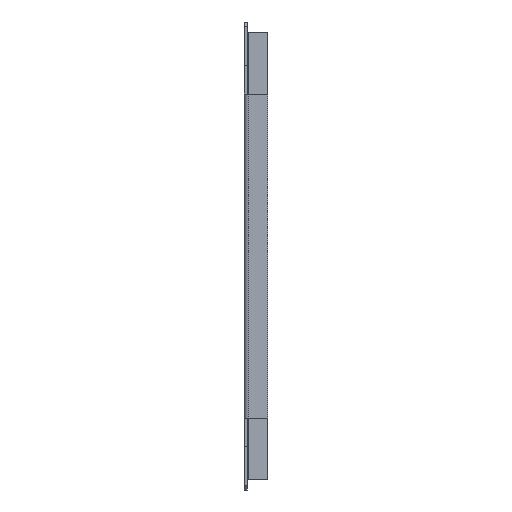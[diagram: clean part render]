
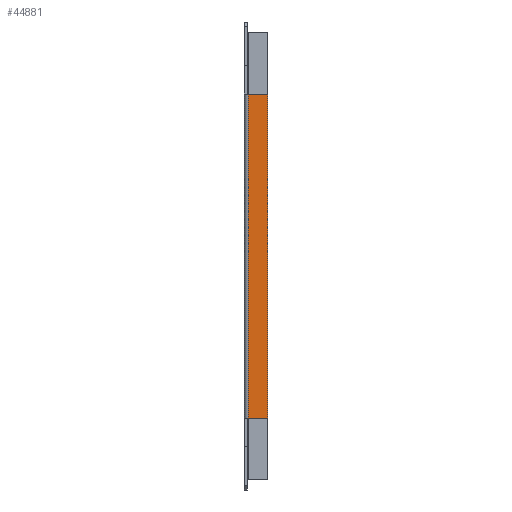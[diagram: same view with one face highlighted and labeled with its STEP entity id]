
A CAD part, left-side view. The second image highlights one B-rep face of the part: STEP entity #44881.
In plain terms, the highlighted planar face has unit normal (-1, 0, 0).
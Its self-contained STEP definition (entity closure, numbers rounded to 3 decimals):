
#43846=CARTESIAN_POINT(' ',(-99.5,-2.6,-103.5));
#43847=VERTEX_POINT(' ',#43846);
#43861=CARTESIAN_POINT(' ',(-99.5,-2.6,-103.5));
#43866=DIRECTION(' ',(0.,0.,1.));
#43871=VECTOR(' ',#43866,1.);
#43876=LINE('',#43861,#43871);
#43881=CARTESIAN_POINT(' ',(-99.5,-2.6,103.5));
#43882=VERTEX_POINT(' ',#43881);
#43886=EDGE_CURVE(' ',#43847,#43882,#43876,.T.);
#44296=CARTESIAN_POINT(' ',(-99.5,-15.,103.5));
#44301=DIRECTION(' ',(0.,1.,0.));
#44306=VECTOR(' ',#44301,1.);
#44311=LINE('',#44296,#44306);
#44316=CARTESIAN_POINT(' ',(-99.5,-15.,103.5));
#44317=VERTEX_POINT(' ',#44316);
#44321=EDGE_CURVE(' ',#44317,#43882,#44311,.T.);
#44581=CARTESIAN_POINT(' ',(-99.5,-15.,-103.5));
#44582=VERTEX_POINT(' ',#44581);
#44596=CARTESIAN_POINT(' ',(-99.5,-2.6,-103.5));
#44601=DIRECTION(' ',(0.,-1.,0.));
#44606=VECTOR(' ',#44601,1.);
#44611=LINE('',#44596,#44606);
#44616=EDGE_CURVE(' ',#43847,#44582,#44611,.T.);
#44801=DIRECTION(' ',(-1.,0.,-0.));
#44806=CARTESIAN_POINT(' ',(-99.5,-15.,-103.5));
#44811=DIRECTION(' ',(-0.,0.,1.));
#44816=AXIS2_PLACEMENT_3D(' ',#44806,#44801,#44811);
#44821=PLANE('NONE',#44816);
#44826=ORIENTED_EDGE(' ',*,*,#43886,.F.);
#44831=ORIENTED_EDGE(' ',*,*,#44616,.T.);
#44836=CARTESIAN_POINT(' ',(-99.5,-15.,-103.5));
#44841=DIRECTION(' ',(0.,0.,1.));
#44846=VECTOR(' ',#44841,1.);
#44851=LINE('',#44836,#44846);
#44856=EDGE_CURVE(' ',#44582,#44317,#44851,.T.);
#44861=ORIENTED_EDGE(' ',*,*,#44856,.T.);
#44866=ORIENTED_EDGE(' ',*,*,#44321,.T.);
#44871=EDGE_LOOP(' ',(#44826,#44831,#44861,#44866));
#44876=FACE_OUTER_BOUND(' ',#44871,.T.);
#44881=ADVANCED_FACE('NONE',(#44876),#44821,.T.);
